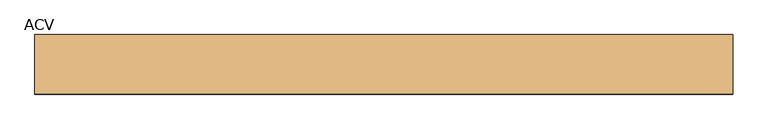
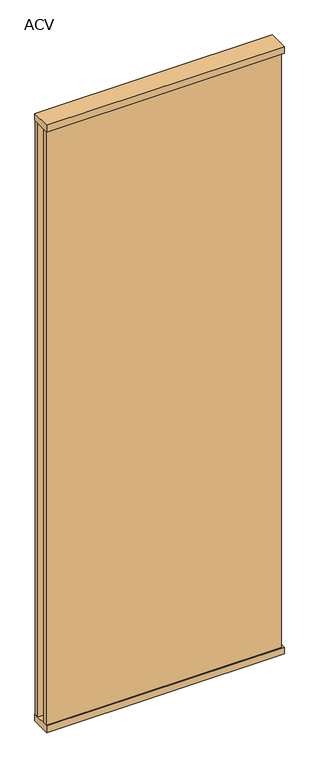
"""IFC4 building model written with IfcOpenShell, lengths in millimetres: door geometry, Mobiliário_Mobiliário de Escritório_Painel Cego - ACV (Complementar)_Marelli : ACV."""

from ifc_helpers import new_model, si_unit, frame, origin, origin_with_axes, place, context, project, spatial, polyline, outline, extrude, source, transform, mapped, element, save


def acv_cffd639f(model_context):
    return source(origin(), model_context, "Body", "SweptSolid", [
        extrude(outline(polyline([(500.0, 42.5), (500.0, -42.5), (-500.0, -42.5), (-500.0, 42.5), (500.0, 42.5)])), origin_with_axes(), (0.0, 0.0, 1.0), 30.0),
        extrude(outline(polyline([(500.0, 42.5), (500.0, -42.5), (-500.0, -42.5), (-500.0, 42.5), (500.0, 42.5)])), frame((0.0, 0.0, 2670.0), z_axis=(0.0, 0.0, 1.0), x_axis=(1.0, 0.0, 0.0)), (0.0, 0.0, 1.0), 30.0),
        extrude(outline(polyline([(500.0, -21.5), (490.0, -21.5), (490.0, 21.5), (500.0, 21.5), (500.0, -21.5)])), origin_with_axes(), (0.0, 0.0, 1.0), 2670.0),
        extrude(outline(polyline([(490.0, 39.5), (490.0, 21.5), (-500.0, 21.5), (-500.0, 39.5), (490.0, 39.5)])), frame((0.0, 0.0, 30.0), z_axis=(0.0, 0.0, 1.0), x_axis=(1.0, 0.0, 0.0)), (0.0, 0.0, 1.0), 2640.0),
        extrude(outline(polyline([(490.0, -39.5), (-500.0, -39.5), (-500.0, -21.5), (490.0, -21.5), (490.0, -39.5)])), frame((0.0, 0.0, 30.0), z_axis=(0.0, 0.0, 1.0), x_axis=(1.0, 0.0, 0.0)), (0.0, 0.0, 1.0), 2640.0),
    ])


if __name__ == "__main__":
    model = new_model("IFC4")
    model_context = context("Model", 3, world=origin())
    ifc_project = project(units=[si_unit("LENGTHUNIT", "METRE", prefix="MILLI")], contexts=[model_context])
    site = spatial("IfcSite", under=ifc_project)
    building = spatial("IfcBuilding", under=site)
    placement = place(None, origin())
    acv_shape = acv_cffd639f(model_context)
    element("IfcDoor", 1, ObjectType="Mobiliário_Mobiliário de Escritório_Painel Cego - ACV (Complementar)_Marelli : ACV", at=placement, inside=building, context=model_context, shape_type="MappedRepresentation", body=[
        mapped(acv_shape, transform((0.0, 0.0, 0.0), x_axis=(1.0, 0.0, 0.0), y_axis=(0.0, 1.0, 0.0), z_axis=(0.0, 0.0, 1.0))),
    ])
    save(model, "model.ifc")
